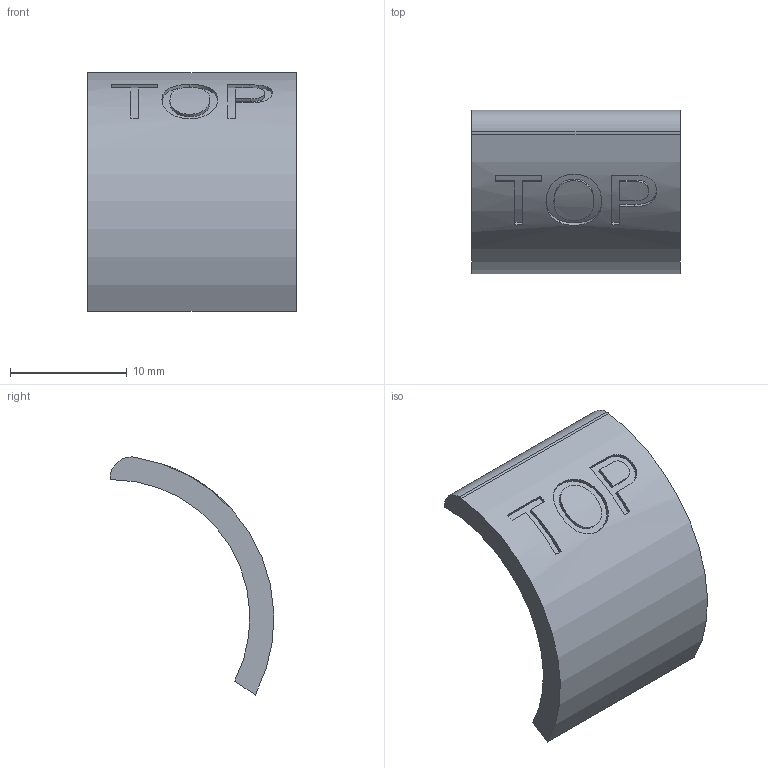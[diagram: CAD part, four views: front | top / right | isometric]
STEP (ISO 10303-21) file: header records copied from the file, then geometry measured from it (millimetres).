
FILE_DESCRIPTION(('HOOPS Exchange Step'),'2;1');
FILE_NAME('/private/var/mobile/Containers/Data/Application/F80535CE-18CF-442F-96C7-3C807C077FF5/tmp/export/temp_export','2026-04-06T21:02:35+19:00',('mobile'),('Shapr3D Limited'),'HOOPS Exchange 2025.9','Shapr3D','Authorized');
FILE_SCHEMA( ('AP242_MANAGED_MODEL_BASED_3D_ENGINEERING_MIM_LF {1 0 10303 442 1 1 4}') );
Length unit declared in the file: millimetre
Products named in the file (2): Back; root
Assembly tree (1 placements, depth 2):
  root
    Back
Bounding box: 17.8 x 14 x 20.37 mm (x, y, z)
Volume: 944.8 mm3; surface area: 1131 mm2
Topology: 1 solids, 1 shells, 38 faces, 93 edges, 62 vertices
Faces by surface type: plane 20, cylinder 10, bspline 8
Entity records: 4055 total; most frequent: CARTESIAN_POINT 3126, ORIENTED_EDGE 186, DIRECTION 169, EDGE_CURVE 93, VERTEX_POINT 62, AXIS2_PLACEMENT_3D 58, VECTOR 53, LINE 53
